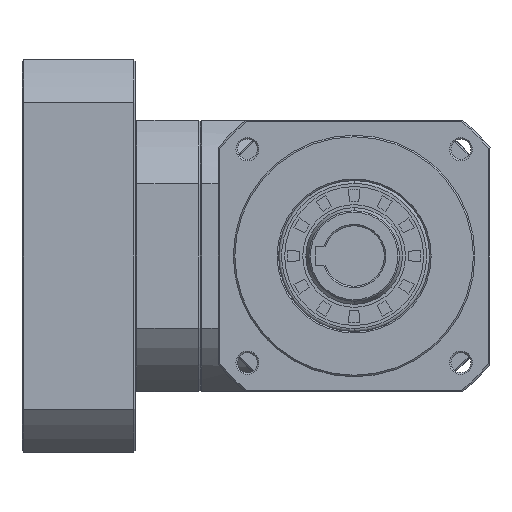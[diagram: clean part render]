
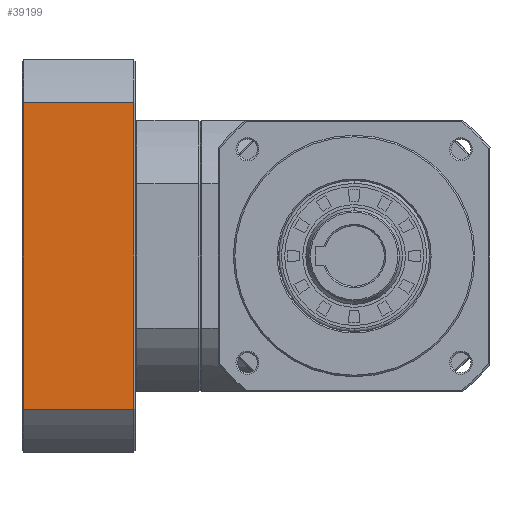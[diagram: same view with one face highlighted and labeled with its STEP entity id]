
A CAD part, left-side view. The second image highlights one B-rep face of the part: STEP entity #39199.
In plain terms, the highlighted planar face has unit normal (-1, 0, 0).
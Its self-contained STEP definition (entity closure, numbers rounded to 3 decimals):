
#3708 = CARTESIAN_POINT ( 'NONE',  ( 94., 73., 50.806 ) ) ;
#4585 = ORIENTED_EDGE ( 'NONE', *, *, #17226, .F. ) ;
#8081 = VECTOR ( 'NONE', #33725, 1000. ) ;
#10206 = LINE ( 'NONE', #59710, #8081 ) ;
#15304 = VERTEX_POINT ( 'NONE', #80031 ) ;
#16303 = PLANE ( 'NONE',  #49089 ) ;
#17226 = EDGE_CURVE ( 'NONE', #49659, #32209, #53020, .T. ) ;
#23177 = ORIENTED_EDGE ( 'NONE', *, *, #49854, .F. ) ;
#25999 = CARTESIAN_POINT ( 'NONE',  ( 94., 109.5, -50.806 ) ) ;
#32146 = CARTESIAN_POINT ( 'NONE',  ( 94., 73., -50.806 ) ) ;
#32209 = VERTEX_POINT ( 'NONE', #25999 ) ;
#33725 = DIRECTION ( 'NONE',  ( 0., 0., -1. ) ) ;
#39199 = ADVANCED_FACE ( 'NONE', ( #74315 ), #16303, .T. ) ;
#45437 = CARTESIAN_POINT ( 'NONE',  ( 94., 109.5, 0. ) ) ;
#45871 = LINE ( 'NONE', #52576, #52167 ) ;
#47574 = EDGE_CURVE ( 'NONE', #15304, #82543, #45871, .T. ) ;
#49089 = AXIS2_PLACEMENT_3D ( 'NONE', #56579, #62992, #50172 ) ;
#49659 = VERTEX_POINT ( 'NONE', #32146 ) ;
#49854 = EDGE_CURVE ( 'NONE', #82543, #49659, #10206, .T. ) ;
#50172 = DIRECTION ( 'NONE',  ( 0., 0., 1. ) ) ;
#51576 = DIRECTION ( 'NONE',  ( 0., 0., -1. ) ) ;
#52167 = VECTOR ( 'NONE', #54881, 1000. ) ;
#52576 = CARTESIAN_POINT ( 'NONE',  ( 94., 91.25, 50.806 ) ) ;
#52686 = ORIENTED_EDGE ( 'NONE', *, *, #85156, .T. ) ;
#53020 = LINE ( 'NONE', #77643, #54096 ) ;
#54096 = VECTOR ( 'NONE', #70324, 1000. ) ;
#54881 = DIRECTION ( 'NONE',  ( 0., -1., 0. ) ) ;
#55045 = ORIENTED_EDGE ( 'NONE', *, *, #47574, .F. ) ;
#56579 = CARTESIAN_POINT ( 'NONE',  ( 94., 73., -50.806 ) ) ;
#59710 = CARTESIAN_POINT ( 'NONE',  ( 94., 73., 0. ) ) ;
#62992 = DIRECTION ( 'NONE',  ( -1., 0., 0. ) ) ;
#65123 = LINE ( 'NONE', #45437, #72383 ) ;
#70324 = DIRECTION ( 'NONE',  ( 0., 1., 0. ) ) ;
#72383 = VECTOR ( 'NONE', #51576, 1000. ) ;
#74315 = FACE_OUTER_BOUND ( 'NONE', #83665, .T. ) ;
#77643 = CARTESIAN_POINT ( 'NONE',  ( 94., 91.25, -50.806 ) ) ;
#80031 = CARTESIAN_POINT ( 'NONE',  ( 94., 109.5, 50.806 ) ) ;
#82543 = VERTEX_POINT ( 'NONE', #3708 ) ;
#83665 = EDGE_LOOP ( 'NONE', ( #4585, #23177, #55045, #52686 ) ) ;
#85156 = EDGE_CURVE ( 'NONE', #15304, #32209, #65123, .T. ) ;
